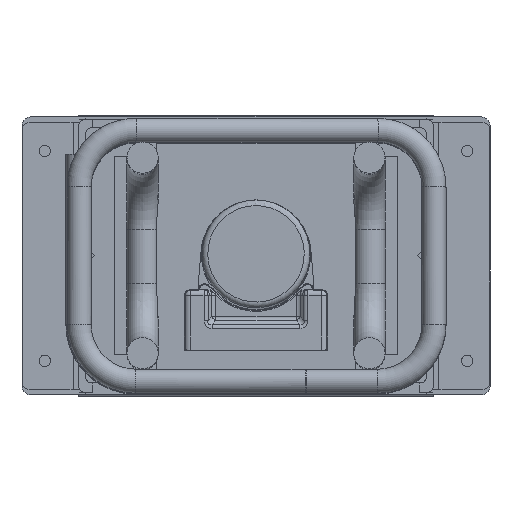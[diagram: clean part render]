
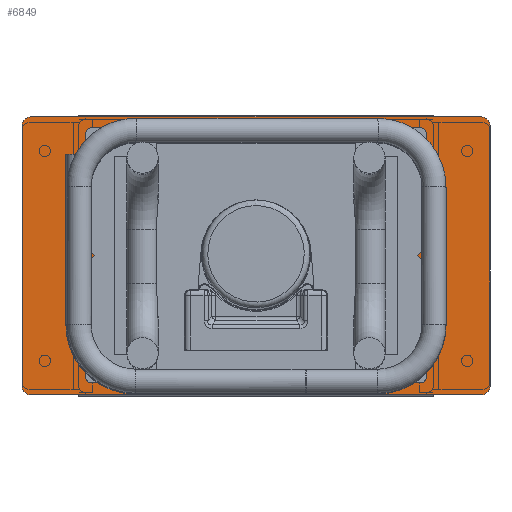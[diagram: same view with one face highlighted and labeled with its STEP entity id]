
A CAD part, top view. The second image highlights one B-rep face of the part: STEP entity #6849.
In plain terms, the highlighted planar face has unit normal (0, 0, 1).
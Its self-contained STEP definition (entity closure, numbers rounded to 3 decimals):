
#56=FACE_BOUND('',#1025,.T.);
#248=PLANE('',#7590);
#643=FACE_OUTER_BOUND('',#1024,.T.);
#1024=EDGE_LOOP('',(#5772,#5773,#5774,#5775,#5776,#5777,#5778,#5779,#5780,
#5781,#5782,#5783));
#1025=EDGE_LOOP('',(#5784));
#1437=LINE('',#11240,#1994);
#1468=LINE('',#11335,#2025);
#1515=LINE('',#11492,#2072);
#1530=LINE('',#11529,#2087);
#1533=LINE('',#11535,#2090);
#1536=LINE('',#11541,#2093);
#1538=LINE('',#11546,#2095);
#1541=LINE('',#11552,#2098);
#1994=VECTOR('',#9098,10.);
#2025=VECTOR('',#9199,10.);
#2072=VECTOR('',#9340,10.);
#2087=VECTOR('',#9375,10.);
#2090=VECTOR('',#9380,10.);
#2093=VECTOR('',#9385,10.);
#2095=VECTOR('',#9389,10.);
#2098=VECTOR('',#9394,10.);
#2517=CIRCLE('',#7555,3.);
#2519=CIRCLE('',#7558,3.);
#2521=CIRCLE('',#7561,3.);
#2523=CIRCLE('',#7564,3.);
#2525=CIRCLE('',#7591,17.6);
#2979=VERTEX_POINT('',#11237);
#2980=VERTEX_POINT('',#11239);
#3008=VERTEX_POINT('',#11332);
#3009=VERTEX_POINT('',#11334);
#3046=VERTEX_POINT('',#11481);
#3048=VERTEX_POINT('',#11488);
#3057=VERTEX_POINT('',#11517);
#3060=VERTEX_POINT('',#11525);
#3062=VERTEX_POINT('',#11532);
#3064=VERTEX_POINT('',#11538);
#3065=VERTEX_POINT('',#11543);
#3067=VERTEX_POINT('',#11549);
#3077=VERTEX_POINT('',#11623);
#3811=EDGE_CURVE('',#2979,#2980,#1437,.T.);
#3859=EDGE_CURVE('',#3008,#3009,#1468,.T.);
#3929=EDGE_CURVE('',#3046,#3048,#1515,.T.);
#3948=EDGE_CURVE('',#3057,#3060,#1530,.T.);
#3951=EDGE_CURVE('',#3046,#3062,#1533,.T.);
#3954=EDGE_CURVE('',#3057,#3064,#1536,.T.);
#3956=EDGE_CURVE('',#3065,#3048,#1538,.T.);
#3959=EDGE_CURVE('',#3067,#3060,#1541,.T.);
#3961=EDGE_CURVE('',#3009,#3067,#2517,.T.);
#3963=EDGE_CURVE('',#3062,#3008,#2519,.T.);
#3965=EDGE_CURVE('',#3064,#2979,#2521,.T.);
#3967=EDGE_CURVE('',#2980,#3065,#2523,.T.);
#3993=EDGE_CURVE('',#3077,#3077,#2525,.T.);
#5772=ORIENTED_EDGE('',*,*,#3967,.F.);
#5773=ORIENTED_EDGE('',*,*,#3811,.F.);
#5774=ORIENTED_EDGE('',*,*,#3965,.F.);
#5775=ORIENTED_EDGE('',*,*,#3954,.F.);
#5776=ORIENTED_EDGE('',*,*,#3948,.T.);
#5777=ORIENTED_EDGE('',*,*,#3959,.F.);
#5778=ORIENTED_EDGE('',*,*,#3961,.F.);
#5779=ORIENTED_EDGE('',*,*,#3859,.F.);
#5780=ORIENTED_EDGE('',*,*,#3963,.F.);
#5781=ORIENTED_EDGE('',*,*,#3951,.F.);
#5782=ORIENTED_EDGE('',*,*,#3929,.T.);
#5783=ORIENTED_EDGE('',*,*,#3956,.F.);
#5784=ORIENTED_EDGE('',*,*,#3993,.T.);
#6849=ADVANCED_FACE('',(#643,#56),#248,.F.);
#7555=AXIS2_PLACEMENT_3D('',#11555,#9398,#9399);
#7558=AXIS2_PLACEMENT_3D('',#11558,#9404,#9405);
#7561=AXIS2_PLACEMENT_3D('',#11561,#9410,#9411);
#7564=AXIS2_PLACEMENT_3D('',#11564,#9416,#9417);
#7590=AXIS2_PLACEMENT_3D('',#11622,#9492,#9493);
#7591=AXIS2_PLACEMENT_3D('',#11624,#9494,#9495);
#9098=DIRECTION('',(0.,1.,0.));
#9199=DIRECTION('',(0.,-1.,0.));
#9340=DIRECTION('',(-1.,0.,0.));
#9375=DIRECTION('',(1.,0.,0.));
#9380=DIRECTION('',(1.,0.,0.));
#9385=DIRECTION('',(-1.,0.,0.));
#9389=DIRECTION('',(1.,0.,0.));
#9394=DIRECTION('',(-1.,0.,0.));
#9398=DIRECTION('center_axis',(0.,0.,
-1.));
#9399=DIRECTION('ref_axis',(0.707,-0.707,0.));
#9404=DIRECTION('center_axis',(0.,0.,
-1.));
#9405=DIRECTION('ref_axis',(0.707,0.707,0.));
#9410=DIRECTION('center_axis',(0.,0.,
-1.));
#9411=DIRECTION('ref_axis',(-0.707,-0.707,0.));
#9416=DIRECTION('center_axis',(0.,0.,
-1.));
#9417=DIRECTION('ref_axis',(-0.707,0.707,0.));
#9492=DIRECTION('center_axis',(0.,0.,
-1.));
#9493=DIRECTION('ref_axis',(0.,1.,0.));
#9494=DIRECTION('center_axis',(0.,0.,
-1.));
#9495=DIRECTION('ref_axis',(1.,0.,0.));
#11237=CARTESIAN_POINT('',(-82.5,-45.999,0.5));
#11239=CARTESIAN_POINT('',(-82.5,45.999,0.5));
#11240=CARTESIAN_POINT('',(-82.5,-48.999,0.5));
#11332=CARTESIAN_POINT('',(82.5,45.999,0.5));
#11334=CARTESIAN_POINT('',(82.5,-45.999,0.5));
#11335=CARTESIAN_POINT('',(82.5,48.999,0.5));
#11481=CARTESIAN_POINT('',(62.5,48.999,0.5));
#11488=CARTESIAN_POINT('',(-62.5,48.999,0.5));
#11492=CARTESIAN_POINT('',(31.25,48.999,0.5));
#11517=CARTESIAN_POINT('',(-62.5,-48.999,0.5));
#11525=CARTESIAN_POINT('',(62.5,-48.999,0.5));
#11529=CARTESIAN_POINT('',(-31.25,-48.999,0.5));
#11532=CARTESIAN_POINT('',(79.5,48.999,0.5));
#11535=CARTESIAN_POINT('',(62.5,48.999,0.5));
#11538=CARTESIAN_POINT('',(-79.5,-48.999,0.5));
#11541=CARTESIAN_POINT('',(-62.5,-48.999,0.5));
#11543=CARTESIAN_POINT('',(-79.5,48.999,0.5));
#11546=CARTESIAN_POINT('',(-62.5,48.999,0.5));
#11549=CARTESIAN_POINT('',(79.5,-48.999,0.5));
#11552=CARTESIAN_POINT('',(62.5,-48.999,0.5));
#11555=CARTESIAN_POINT('Origin',(79.5,-45.999,0.5));
#11558=CARTESIAN_POINT('Origin',(79.5,45.999,0.5));
#11561=CARTESIAN_POINT('Origin',(-79.5,-45.999,0.5));
#11564=CARTESIAN_POINT('Origin',(-79.5,45.999,0.5));
#11622=CARTESIAN_POINT('Origin',(-72.5,0.,
0.5));
#11623=CARTESIAN_POINT('',(-17.6,0.,0.5));
#11624=CARTESIAN_POINT('Origin',(0.,0.,
0.5));
